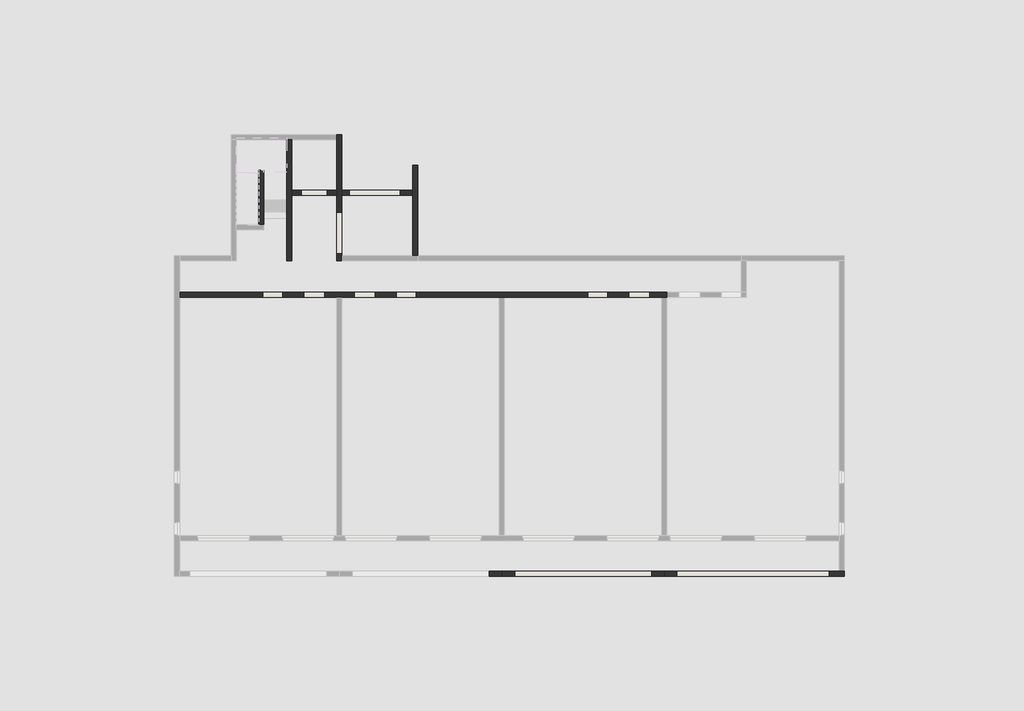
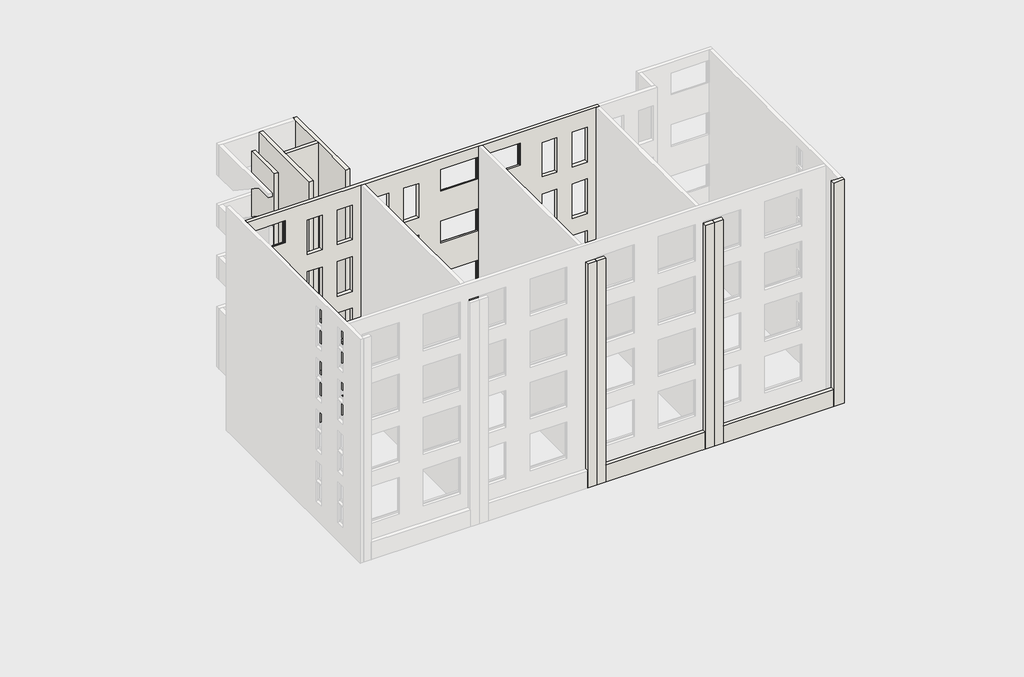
# One storey, part 2 of 5: 14 walls.
"""IFC4 building model written with IfcOpenShell, lengths in millimetres."""

import ifcopenshell
import ifcopenshell.guid

model = None  # the IFC model being written
_history = None  # IfcOwnerHistory: only IFC2X3 demands one
_inside = {}  # id of a spatial element -> (the spatial element, [elements in it])
_under = {}  # id of a project, library or spatial element -> (it, [spatial elements below it])
_declared = {}  # id of a project -> (the project, [libraries it declares])
_typed = {}  # id of a type object -> (the type object, [elements of that type])
_made_of = {}  # id of a material, layer set ... -> (it, [elements and type objects made of it])


def new_model(schema):
    """Start an empty IFC model of exactly this schema.

    Asked for "IFC4X3", IfcOpenShell would pick the latest addendum, in which some entities
    have other attributes; the version numbers below select the first issue.
    IFC2X3 requires an IfcOwnerHistory on every rooted entity: one is made here for all.
    """
    global model, _history
    if schema == "IFC4X3":
        model = ifcopenshell.file(schema_version=(4, 3, 0, 0))
    else:
        model = ifcopenshell.file(schema=schema)
    _inside.clear()
    _under.clear()
    _declared.clear()
    _typed.clear()
    _made_of.clear()
    _history = None
    if model.schema == "IFC2X3":
        org = make("IfcOrganization", Name="unknown")
        user = make(
            "IfcPersonAndOrganization",
            ThePerson=make("IfcPerson", FamilyName="unknown"),
            TheOrganization=org,
        )
        app = make(
            "IfcApplication",
            ApplicationDeveloper=org,
            Version="unknown",
            ApplicationFullName="unknown",
            ApplicationIdentifier="unknown",
        )
        _history = make(
            "IfcOwnerHistory",
            OwningUser=user,
            OwningApplication=app,
            ChangeAction="ADDED",
            CreationDate=0,
        )
    return model


def make(cls, **values):
    """One entity of the class cls with the attributes given. An attribute that is None is left unset."""
    return model.create_entity(
        cls, **{name: value for name, value in values.items() if value is not None}
    )


def rooted(cls, **values):
    """An entity with a GlobalId (a new one), such as an element, a storey or a relation."""
    return make(cls, GlobalId=ifcopenshell.guid.new(), OwnerHistory=_history, **values)


def si_unit(unit_type, name, prefix=None):
    """IfcSIUnit, for example si_unit("LENGTHUNIT", "METRE", prefix="MILLI")."""
    return make("IfcSIUnit", UnitType=unit_type, Prefix=prefix, Name=name)


def assignment(units):
    """IfcUnitAssignment: the units of a project."""
    return None if units is None else make("IfcUnitAssignment", Units=units)


def point(xyz):
    """IfcCartesianPoint."""
    return None if xyz is None else make("IfcCartesianPoint", Coordinates=xyz)


def direction(xyz):
    """IfcDirection."""
    return None if xyz is None else make("IfcDirection", DirectionRatios=xyz)


def frame(location, z_axis=None, x_axis=None):
    """IfcAxis2Placement3D, a coordinate frame: its origin and axes. An axis left out is left unset."""
    return make(
        "IfcAxis2Placement3D",
        Location=point(location),
        Axis=direction(z_axis),
        RefDirection=direction(x_axis),
    )


def origin():
    """The frame at (0, 0, 0) with its axes left unset."""
    return frame((0.0, 0.0, 0.0))


def place(relative_to, where):
    """IfcLocalPlacement: puts the frame where relative to a parent placement (None: the world)."""
    return make(
        "IfcLocalPlacement", PlacementRelTo=relative_to, RelativePlacement=where
    )


def context(
    kind, dimensions, precision=None, world=None, true_north=None, identifier=None
):
    """IfcGeometricRepresentationContext, for example the 3D "Model" context."""
    return make(
        "IfcGeometricRepresentationContext",
        ContextIdentifier=identifier,
        ContextType=kind,
        CoordinateSpaceDimension=dimensions,
        Precision=precision,
        WorldCoordinateSystem=world,
        TrueNorth=true_north,
    )


def project(units=None, contexts=None):
    """IfcProject with its units and contexts."""
    return rooted(
        "IfcProject",
        Name="project",
        RepresentationContexts=contexts,
        UnitsInContext=assignment(units),
    )


def spatial(cls, under=None, at=None, **own):
    """A site, building, storey or space (cls), placed at a placement, below another one or the project."""
    s = rooted(cls, ObjectPlacement=at, **own)
    if under is not None:
        _under.setdefault(under.id(), (under, []))[1].append(s)
    return s


def polyline(points):
    """IfcPolyline through the points."""
    return make("IfcPolyline", Points=[point(p) for p in points])


def outline(outer, holes=None, kind="AREA"):
    """IfcArbitraryClosedProfileDef: a profile drawn as a closed curve; with holes, ...WithVoids."""
    if holes is None:
        return make("IfcArbitraryClosedProfileDef", ProfileType=kind, OuterCurve=outer)
    return make(
        "IfcArbitraryProfileDefWithVoids",
        ProfileType=kind,
        OuterCurve=outer,
        InnerCurves=holes,
    )


def extrude(swept, where, along, depth):
    """IfcExtrudedAreaSolid: the profile swept, set in the frame where, extruded along a direction by depth."""
    return make(
        "IfcExtrudedAreaSolid",
        SweptArea=swept,
        Position=where,
        ExtrudedDirection=direction(along),
        Depth=depth,
    )


def faces_of(points, faces, orient=None, outer=None):
    """IfcFace entities. A face is a list of loops; a loop is a list of indices into points, from 0.

    orient and outer hold one flag for each loop. By default every Orientation is true, the
    first loop of a face is its IfcFaceOuterBound and the others are IfcFaceBound.
    """
    made = []
    for i, loops in enumerate(faces):
        bounds = []
        for j, loop in enumerate(loops):
            is_outer = j == 0 if outer is None else outer[i][j]
            bounds.append(
                make(
                    "IfcFaceOuterBound" if is_outer else "IfcFaceBound",
                    Bound=make("IfcPolyLoop", Polygon=[points[k] for k in loop]),
                    Orientation=True if orient is None else orient[i][j],
                )
            )
        made.append(make("IfcFace", Bounds=bounds))
    return made


def faceted_brep(points, faces, orient=None, outer=None, voids=None):
    """IfcFacetedBrep: a solid bounded by flat faces; with voids (closed shells), ...WithVoids."""
    shared = [point(p) for p in points]
    hull = make("IfcClosedShell", CfsFaces=faces_of(shared, faces, orient, outer))
    if voids is None:
        return make("IfcFacetedBrep", Outer=hull)
    return make(
        "IfcFacetedBrepWithVoids",
        Outer=hull,
        Voids=[
            make(cls, CfsFaces=faces_of(shared, fs, o, b)) for cls, fs, o, b in voids
        ],
    )


def shape(context_of_items, identifier, shape_type, items):
    """IfcShapeRepresentation: the items that make up one representation, for example the "Body"."""
    return make(
        "IfcShapeRepresentation",
        ContextOfItems=context_of_items,
        RepresentationIdentifier=identifier,
        RepresentationType=shape_type,
        Items=items,
    )


def made_of(thing, what):
    """Note that an element or type object is made of a material, layer set ...; save() writes the relation."""
    if what is not None:
        _made_of.setdefault(what.id(), (what, []))[1].append(thing)
    return thing


def element(
    cls,
    number,
    at=None,
    inside=None,
    cuts=None,
    type_object=None,
    material=None,
    context=None,
    identifier="Body",
    shape_type=None,
    held_by="IfcProductDefinitionShape",
    body=None,
    shapes=None,
    **own,
):
    """One element of the class cls, such as IfcWall. Its Tag is "e" and its number.

    at: its placement. inside: the storey or other place that contains it. cuts: it is an
    opening in that element (IfcRelVoidsElement). A single representation is given by context,
    identifier, shape_type and body (its items); several are given by shapes. held_by: the class
    of the entity that holds the representations. save() writes the other relations.
    """
    e = rooted(cls, Tag="e%d" % number, ObjectPlacement=at, **own)
    if body is not None:
        shapes = [shape(context, identifier, shape_type, body)]
    if shapes is not None:
        e.Representation = make(held_by, Representations=shapes)
    if inside is not None:
        _inside.setdefault(inside.id(), (inside, []))[1].append(e)
    if cuts is not None:
        rooted(
            "IfcRelVoidsElement", RelatingBuildingElement=cuts, RelatedOpeningElement=e
        )
    if type_object is not None:
        _typed.setdefault(type_object.id(), (type_object, []))[1].append(e)
    return made_of(e, material)


def aggregate(whole, parts):
    """IfcRelAggregates: a whole, such as a stair, and the parts it consists of."""
    return rooted("IfcRelAggregates", RelatingObject=whole, RelatedObjects=parts)


def save(model, path):
    """Write the relations noted so far, then the file.

    IfcRelAggregates (storeys below a building ...), IfcRelContainedInSpatialStructure (elements
    in a storey), IfcRelDefinesByType, IfcRelAssociatesMaterial and IfcRelDeclares: one each for
    every whole, place, type object, material and project.
    """
    for whole, parts in _under.values():
        aggregate(whole, parts)
    for where, things in _inside.values():
        rooted(
            "IfcRelContainedInSpatialStructure",
            RelatedElements=things,
            RelatingStructure=where,
        )
    for kind, things in _typed.values():
        rooted("IfcRelDefinesByType", RelatedObjects=things, RelatingType=kind)
    for what, things in _made_of.values():
        rooted("IfcRelAssociatesMaterial", RelatedObjects=things, RelatingMaterial=what)
    for by, libraries in _declared.values():
        rooted("IfcRelDeclares", RelatingContext=by, RelatedDefinitions=libraries)
    model.write(path)


model = new_model("IFC4")

# Units and contexts
model_context = context("Model", 3, world=origin())
ifc_project = project(units=[si_unit("LENGTHUNIT", "METRE", prefix="MILLI")], contexts=[model_context])

# Site, building, storey
site = spatial("IfcSite", under=ifc_project)
building = spatial("IfcBuilding", under=site)
storey = spatial("IfcBuildingStorey", under=building, Name="設計GL", Elevation=0.0)

# Walls
placement = place(None, origin())
element("IfcWall", 1, ObjectType="(R)RC200", at=placement, inside=storey, context=model_context, shape_type="Brep", body=[
    faceted_brep([(-11078.7187246, -5800.1171638, -1200.0), (-4828.7187246, -5800.1171638, -1200.0), (-4628.7187246, -5800.1171638, -1200.0), (1621.2812754, -5800.1171638, -1200.0), (1821.2812754, -5800.1171638, -1200.0), (8071.2812754, -5800.1171638, -1200.0), (8271.2812754, -5800.1171638, -1200.0), (8271.2812754, -5800.1171638, 13000.0), (8071.2812754, -5800.1171638, 13000.0), (1821.2812754, -5800.1171638, 13000.0), (1621.2812754, -5800.1171638, 13000.0), (-4628.7187246, -5800.1171638, 13000.0), (-4828.7187246, -5800.1171638, 13000.0), (-11078.7187246, -5800.1171638, 13000.0), (-6978.7187246, -5800.1171638, 1000.0), (-7778.7187246, -5800.1171638, 1000.0), (-7778.7187246, -5800.1171638, 3000.0), (-6978.7187246, -5800.1171638, 3000.0), (-6148.7187246, -5800.1171638, 3020.0), (-5308.7187246, -5800.1171638, 3020.0), (-5308.7187246, -5800.1171638, 1000.0), (-6148.7187246, -5800.1171638, 1000.0), (-8988.7187246, -5800.1171638, 3385.0), (-8988.7187246, -5800.1171638, 2115.0), (-11068.7187246, -5800.1171638, 2115.0), (-11068.7187246, -5800.1171638, 3385.0), (1611.2812754, -5800.1171638, 3385.0), (1611.2812754, -5800.1171638, 2115.0), (-468.7187246, -5800.1171638, 2115.0), (-468.7187246, -5800.1171638, 3385.0), (-3308.7187246, -5800.1171638, 3020.0), (-3308.7187246, -5800.1171638, 1000.0), (-4148.7187246, -5800.1171638, 1000.0), (-4148.7187246, -5800.1171638, 3020.0), (-2478.7187246, -5800.1171638, 1000.0), (-2478.7187246, -5800.1171638, 3000.0), (-1678.7187246, -5800.1171638, 3000.0), (-1678.7187246, -5800.1171638, 1000.0), (3911.2812754, -5800.1171638, 3385.0), (3911.2812754, -5800.1171638, 2115.0), (1831.2812754, -5800.1171638, 2115.0), (1831.2812754, -5800.1171638, 3385.0), (6751.2812754, -5800.1171638, 3020.0), (7591.2812754, -5800.1171638, 3020.0), (7591.2812754, -5800.1171638, 1000.0), (6751.2812754, -5800.1171638, 1000.0), (5921.2812754, -5800.1171638, 1000.0), (5121.2812754, -5800.1171638, 1000.0), (5121.2812754, -5800.1171638, 3000.0), (5921.2812754, -5800.1171638, 3000.0), (3911.2812754, -5800.1171638, 6385.0), (3911.2812754, -5800.1171638, 5115.0), (1831.2812754, -5800.1171638, 5115.0), (1831.2812754, -5800.1171638, 6385.0), (6751.2812754, -5800.1171638, 6020.0), (7591.2812754, -5800.1171638, 6020.0), (7591.2812754, -5800.1171638, 4000.0), (6751.2812754, -5800.1171638, 4000.0), (5921.2812754, -5800.1171638, 4000.0), (5121.2812754, -5800.1171638, 4000.0), (5121.2812754, -5800.1171638, 6000.0), (5921.2812754, -5800.1171638, 6000.0), (1611.2812754, -5800.1171638, 6385.0), (1611.2812754, -5800.1171638, 5115.0), (-468.7187246, -5800.1171638, 5115.0), (-468.7187246, -5800.1171638, 6385.0), (-3308.7187246, -5800.1171638, 6020.0), (-3308.7187246, -5800.1171638, 4000.0), (-4148.7187246, -5800.1171638, 4000.0), (-4148.7187246, -5800.1171638, 6020.0), (-2478.7187246, -5800.1171638, 4000.0), (-2478.7187246, -5800.1171638, 6000.0), (-1678.7187246, -5800.1171638, 6000.0), (-1678.7187246, -5800.1171638, 4000.0), (-8988.7187246, -5800.1171638, 6385.0), (-8988.7187246, -5800.1171638, 5115.0), (-11068.7187246, -5800.1171638, 5115.0), (-11068.7187246, -5800.1171638, 6385.0), (-6148.7187246, -5800.1171638, 6020.0), (-5308.7187246, -5800.1171638, 6020.0), (-5308.7187246, -5800.1171638, 4000.0), (-6148.7187246, -5800.1171638, 4000.0), (-6978.7187246, -5800.1171638, 4000.0), (-7778.7187246, -5800.1171638, 4000.0), (-7778.7187246, -5800.1171638, 6000.0), (-6978.7187246, -5800.1171638, 6000.0), (3911.2812754, -5800.1171638, 9385.0), (3911.2812754, -5800.1171638, 8115.0), (1831.2812754, -5800.1171638, 8115.0), (1831.2812754, -5800.1171638, 9385.0), (6751.2812754, -5800.1171638, 9020.0), (7591.2812754, -5800.1171638, 9020.0), (7591.2812754, -5800.1171638, 7000.0), (6751.2812754, -5800.1171638, 7000.0), (5921.2812754, -5800.1171638, 7000.0), (5121.2812754, -5800.1171638, 7000.0), (5121.2812754, -5800.1171638, 9000.0), (5921.2812754, -5800.1171638, 9000.0), (1611.2812754, -5800.1171638, 9385.0), (1611.2812754, -5800.1171638, 8115.0), (-468.7187246, -5800.1171638, 8115.0), (-468.7187246, -5800.1171638, 9385.0), (-3308.7187246, -5800.1171638, 9020.0), (-3308.7187246, -5800.1171638, 7000.0), (-4148.7187246, -5800.1171638, 7000.0), (-4148.7187246, -5800.1171638, 9020.0), (-2478.7187246, -5800.1171638, 7000.0), (-2478.7187246, -5800.1171638, 9000.0), (-1678.7187246, -5800.1171638, 9000.0), (-1678.7187246, -5800.1171638, 7000.0), (-8988.7187246, -5800.1171638, 9385.0), (-8988.7187246, -5800.1171638, 8115.0), (-11068.7187246, -5800.1171638, 8115.0), (-11068.7187246, -5800.1171638, 9385.0), (-6148.7187246, -5800.1171638, 9020.0), (-5308.7187246, -5800.1171638, 9020.0), (-5308.7187246, -5800.1171638, 7000.0), (-6148.7187246, -5800.1171638, 7000.0), (-6978.7187246, -5800.1171638, 7000.0), (-7778.7187246, -5800.1171638, 7000.0), (-7778.7187246, -5800.1171638, 9000.0), (-6978.7187246, -5800.1171638, 9000.0), (3911.2812754, -5800.1171638, 12385.0), (3911.2812754, -5800.1171638, 11115.0), (1831.2812754, -5800.1171638, 11115.0), (1831.2812754, -5800.1171638, 12385.0), (6751.2812754, -5800.1171638, 12020.0), (7591.2812754, -5800.1171638, 12020.0), (7591.2812754, -5800.1171638, 10000.0), (6751.2812754, -5800.1171638, 10000.0), (5921.2812754, -5800.1171638, 10000.0), (5121.2812754, -5800.1171638, 10000.0), (5121.2812754, -5800.1171638, 12000.0), (5921.2812754, -5800.1171638, 12000.0), (1611.2812754, -5800.1171638, 12385.0), (1611.2812754, -5800.1171638, 11115.0), (-468.7187246, -5800.1171638, 11115.0), (-468.7187246, -5800.1171638, 12385.0), (-3308.7187246, -5800.1171638, 12020.0), (-3308.7187246, -5800.1171638, 10000.0), (-4148.7187246, -5800.1171638, 10000.0), (-4148.7187246, -5800.1171638, 12020.0), (-2478.7187246, -5800.1171638, 10000.0), (-2478.7187246, -5800.1171638, 12000.0), (-1678.7187246, -5800.1171638, 12000.0), (-1678.7187246, -5800.1171638, 10000.0), (-8988.7187246, -5800.1171638, 12385.0), (-8988.7187246, -5800.1171638, 11115.0), (-11068.7187246, -5800.1171638, 11115.0), (-11068.7187246, -5800.1171638, 12385.0), (-6148.7187246, -5800.1171638, 12020.0), (-5308.7187246, -5800.1171638, 12020.0), (-5308.7187246, -5800.1171638, 10000.0), (-6148.7187246, -5800.1171638, 10000.0), (-6978.7187246, -5800.1171638, 10000.0), (-7778.7187246, -5800.1171638, 10000.0), (-7778.7187246, -5800.1171638, 12000.0), (-6978.7187246, -5800.1171638, 12000.0), (-11078.7187246, -5600.1171638, -1200.0), (-11078.7187246, -5600.1171638, 13000.0), (8271.2812754, -5600.1171638, 13000.0), (8271.2812754, -5600.1171638, -1200.0), (-6978.7187246, -5600.1171638, 1000.0), (-6978.7187246, -5600.1171638, 3000.0), (-7778.7187246, -5600.1171638, 3000.0), (-7778.7187246, -5600.1171638, 1000.0), (-6148.7187246, -5600.1171638, 3020.0), (-6148.7187246, -5600.1171638, 1000.0), (-5308.7187246, -5600.1171638, 1000.0), (-5308.7187246, -5600.1171638, 3020.0), (-11038.7187246, -5600.1171638, 2025.0), (-9018.7187246, -5600.1171638, 2025.0), (-9018.7187246, -5600.1171638, 3360.0), (-11038.7187246, -5600.1171638, 3360.0), (-438.7187246, -5600.1171638, 2025.0), (1581.2812754, -5600.1171638, 2025.0), (1581.2812754, -5600.1171638, 3360.0), (-438.7187246, -5600.1171638, 3360.0), (-3308.7187246, -5600.1171638, 3020.0), (-4148.7187246, -5600.1171638, 3020.0), (-4148.7187246, -5600.1171638, 1000.0), (-3308.7187246, -5600.1171638, 1000.0), (-2478.7187246, -5600.1171638, 1000.0), (-1678.7187246, -5600.1171638, 1000.0), (-1678.7187246, -5600.1171638, 3000.0), (-2478.7187246, -5600.1171638, 3000.0), (1861.2812754, -5600.1171638, 2025.0), (3881.2812754, -5600.1171638, 2025.0), (3881.2812754, -5600.1171638, 3360.0), (1861.2812754, -5600.1171638, 3360.0), (6751.2812754, -5600.1171638, 3020.0), (6751.2812754, -5600.1171638, 1000.0), (7591.2812754, -5600.1171638, 1000.0), (7591.2812754, -5600.1171638, 3020.0), (5921.2812754, -5600.1171638, 1000.0), (5921.2812754, -5600.1171638, 3000.0), (5121.2812754, -5600.1171638, 3000.0), (5121.2812754, -5600.1171638, 1000.0), (1861.2812754, -5600.1171638, 5025.0), (3881.2812754, -5600.1171638, 5025.0), (3881.2812754, -5600.1171638, 6360.0), (1861.2812754, -5600.1171638, 6360.0), (6751.2812754, -5600.1171638, 6020.0), (6751.2812754, -5600.1171638, 4000.0), (7591.2812754, -5600.1171638, 4000.0), (7591.2812754, -5600.1171638, 6020.0), (5921.2812754, -5600.1171638, 4000.0), (5921.2812754, -5600.1171638, 6000.0), (5121.2812754, -5600.1171638, 6000.0), (5121.2812754, -5600.1171638, 4000.0), (-438.7187246, -5600.1171638, 5025.0), (1581.2812754, -5600.1171638, 5025.0), (1581.2812754, -5600.1171638, 6360.0), (-438.7187246, -5600.1171638, 6360.0), (-3308.7187246, -5600.1171638, 6020.0), (-4148.7187246, -5600.1171638, 6020.0), (-4148.7187246, -5600.1171638, 4000.0), (-3308.7187246, -5600.1171638, 4000.0), (-2478.7187246, -5600.1171638, 4000.0), (-1678.7187246, -5600.1171638, 4000.0), (-1678.7187246, -5600.1171638, 6000.0), (-2478.7187246, -5600.1171638, 6000.0), (-11038.7187246, -5600.1171638, 5025.0), (-9018.7187246, -5600.1171638, 5025.0), (-9018.7187246, -5600.1171638, 6360.0), (-11038.7187246, -5600.1171638, 6360.0), (-6148.7187246, -5600.1171638, 6020.0), (-6148.7187246, -5600.1171638, 4000.0), (-5308.7187246, -5600.1171638, 4000.0), (-5308.7187246, -5600.1171638, 6020.0), (-6978.7187246, -5600.1171638, 4000.0), (-6978.7187246, -5600.1171638, 6000.0), (-7778.7187246, -5600.1171638, 6000.0), (-7778.7187246, -5600.1171638, 4000.0), (1861.2812754, -5600.1171638, 8025.0), (3881.2812754, -5600.1171638, 8025.0), (3881.2812754, -5600.1171638, 9360.0), (1861.2812754, -5600.1171638, 9360.0), (6751.2812754, -5600.1171638, 9020.0), (6751.2812754, -5600.1171638, 7000.0), (7591.2812754, -5600.1171638, 7000.0), (7591.2812754, -5600.1171638, 9020.0), (5921.2812754, -5600.1171638, 7000.0), (5921.2812754, -5600.1171638, 9000.0), (5121.2812754, -5600.1171638, 9000.0), (5121.2812754, -5600.1171638, 7000.0), (-438.7187246, -5600.1171638, 8025.0), (1581.2812754, -5600.1171638, 8025.0), (1581.2812754, -5600.1171638, 9360.0), (-438.7187246, -5600.1171638, 9360.0), (-3308.7187246, -5600.1171638, 9020.0), (-4148.7187246, -5600.1171638, 9020.0), (-4148.7187246, -5600.1171638, 7000.0), (-3308.7187246, -5600.1171638, 7000.0), (-2478.7187246, -5600.1171638, 7000.0), (-1678.7187246, -5600.1171638, 7000.0), (-1678.7187246, -5600.1171638, 9000.0), (-2478.7187246, -5600.1171638, 9000.0), (-11038.7187246, -5600.1171638, 8025.0), (-9018.7187246, -5600.1171638, 8025.0), (-9018.7187246, -5600.1171638, 9360.0), (-11038.7187246, -5600.1171638, 9360.0), (-6148.7187246, -5600.1171638, 9020.0), (-6148.7187246, -5600.1171638, 7000.0), (-5308.7187246, -5600.1171638, 7000.0), (-5308.7187246, -5600.1171638, 9020.0), (-6978.7187246, -5600.1171638, 7000.0), (-6978.7187246, -5600.1171638, 9000.0), (-7778.7187246, -5600.1171638, 9000.0), (-7778.7187246, -5600.1171638, 7000.0), (1861.2812754, -5600.1171638, 11025.0), (3881.2812754, -5600.1171638, 11025.0), (3881.2812754, -5600.1171638, 12360.0), (1861.2812754, -5600.1171638, 12360.0), (6751.2812754, -5600.1171638, 12020.0), (6751.2812754, -5600.1171638, 10000.0), (7591.2812754, -5600.1171638, 10000.0), (7591.2812754, -5600.1171638, 12020.0), (5921.2812754, -5600.1171638, 10000.0), (5921.2812754, -5600.1171638, 12000.0), (5121.2812754, -5600.1171638, 12000.0), (5121.2812754, -5600.1171638, 10000.0), (-438.7187246, -5600.1171638, 11025.0), (1581.2812754, -5600.1171638, 11025.0), (1581.2812754, -5600.1171638, 12360.0), (-438.7187246, -5600.1171638, 12360.0), (-3308.7187246, -5600.1171638, 12020.0), (-4148.7187246, -5600.1171638, 12020.0), (-4148.7187246, -5600.1171638, 10000.0), (-3308.7187246, -5600.1171638, 10000.0), (-2478.7187246, -5600.1171638, 10000.0), (-1678.7187246, -5600.1171638, 10000.0), (-1678.7187246, -5600.1171638, 12000.0), (-2478.7187246, -5600.1171638, 12000.0), (-11038.7187246, -5600.1171638, 11025.0), (-9018.7187246, -5600.1171638, 11025.0), (-9018.7187246, -5600.1171638, 12360.0), (-11038.7187246, -5600.1171638, 12360.0), (-6148.7187246, -5600.1171638, 12020.0), (-6148.7187246, -5600.1171638, 10000.0), (-5308.7187246, -5600.1171638, 10000.0), (-5308.7187246, -5600.1171638, 12020.0), (-6978.7187246, -5600.1171638, 10000.0), (-6978.7187246, -5600.1171638, 12000.0), (-7778.7187246, -5600.1171638, 12000.0), (-7778.7187246, -5600.1171638, 10000.0), (-8988.7187246, -5730.1171638, 3385.0), (-8988.7187246, -5730.1171638, 2115.0), (-11068.7187246, -5730.1171638, 2115.0), (-11068.7187246, -5730.1171638, 3385.0), (-8998.7187246, -5730.1171638, 2115.0), (-11058.7187246, -5730.1171638, 2115.0), (-11058.7187246, -5730.1171638, 3380.0), (-8998.7187246, -5730.1171638, 3380.0), (-8998.7187246, -5660.1171638, 3380.0), (-8998.7187246, -5660.1171638, 2034.2307692), (-8998.7187246, -5730.1171638, 2045.0), (-11058.7187246, -5730.1171638, 2045.0), (-11058.7187246, -5660.1171638, 2034.2307692), (-11058.7187246, -5660.1171638, 3380.0), (-9018.7187246, -5660.1171638, 2034.2307692), (-11038.7187246, -5660.1171638, 2034.2307692), (-11038.7187246, -5660.1171638, 3360.0), (-9018.7187246, -5660.1171638, 3360.0), (1611.2812754, -5730.1171638, 3385.0), (1611.2812754, -5730.1171638, 2115.0), (-468.7187246, -5730.1171638, 2115.0), (-468.7187246, -5730.1171638, 3385.0), (1601.2812754, -5730.1171638, 2115.0), (-458.7187246, -5730.1171638, 2115.0), (-458.7187246, -5730.1171638, 3380.0), (1601.2812754, -5730.1171638, 3380.0), (1601.2812754, -5660.1171638, 3380.0), (1601.2812754, -5660.1171638, 2034.2307692), (1601.2812754, -5730.1171638, 2045.0), (-458.7187246, -5730.1171638, 2045.0), (-458.7187246, -5660.1171638, 2034.2307692), (-458.7187246, -5660.1171638, 3380.0), (1581.2812754, -5660.1171638, 2034.2307692), (-438.7187246, -5660.1171638, 2034.2307692), (-438.7187246, -5660.1171638, 3360.0), (1581.2812754, -5660.1171638, 3360.0), (3911.2812754, -5730.1171638, 3385.0), (3911.2812754, -5730.1171638, 2115.0), (1831.2812754, -5730.1171638, 2115.0), (1831.2812754, -5730.1171638, 3385.0), (3901.2812754, -5730.1171638, 2115.0), (1841.2812754, -5730.1171638, 2115.0), (1841.2812754, -5730.1171638, 3380.0), (3901.2812754, -5730.1171638, 3380.0), (3901.2812754, -5660.1171638, 3380.0), (3901.2812754, -5660.1171638, 2034.2307692), (3901.2812754, -5730.1171638, 2045.0), (1841.2812754, -5730.1171638, 2045.0), (1841.2812754, -5660.1171638, 2034.2307692), (1841.2812754, -5660.1171638, 3380.0), (3881.2812754, -5660.1171638, 2034.2307692), (1861.2812754, -5660.1171638, 2034.2307692), (1861.2812754, -5660.1171638, 3360.0), (3881.2812754, -5660.1171638, 3360.0), (3911.2812754, -5730.1171638, 6385.0), (3911.2812754, -5730.1171638, 5115.0), (1831.2812754, -5730.1171638, 5115.0), (1831.2812754, -5730.1171638, 6385.0), (3901.2812754, -5730.1171638, 5115.0), (1841.2812754, -5730.1171638, 5115.0), (1841.2812754, -5730.1171638, 6380.0), (3901.2812754, -5730.1171638, 6380.0), (3901.2812754, -5660.1171638, 6380.0), (3901.2812754, -5660.1171638, 5034.2307692), (3901.2812754, -5730.1171638, 5045.0), (1841.2812754, -5730.1171638, 5045.0), (1841.2812754, -5660.1171638, 5034.2307692), (1841.2812754, -5660.1171638, 6380.0), (3881.2812754, -5660.1171638, 5034.2307692), (1861.2812754, -5660.1171638, 5034.2307692), (1861.2812754, -5660.1171638, 6360.0), (3881.2812754, -5660.1171638, 6360.0), (1611.2812754, -5730.1171638, 6385.0), (1611.2812754, -5730.1171638, 5115.0), (-468.7187246, -5730.1171638, 5115.0), (-468.7187246, -5730.1171638, 6385.0), (1601.2812754, -5730.1171638, 5115.0), (-458.7187246, -5730.1171638, 5115.0), (-458.7187246, -5730.1171638, 6380.0), (1601.2812754, -5730.1171638, 6380.0), (1601.2812754, -5660.1171638, 6380.0), (1601.2812754, -5660.1171638, 5034.2307692), (1601.2812754, -5730.1171638, 5045.0), (-458.7187246, -5730.1171638, 5045.0), (-458.7187246, -5660.1171638, 5034.2307692), (-458.7187246, -5660.1171638, 6380.0), (1581.2812754, -5660.1171638, 5034.2307692), (-438.7187246, -5660.1171638, 5034.2307692), (-438.7187246, -5660.1171638, 6360.0), (1581.2812754, -5660.1171638, 6360.0), (-8988.7187246, -5730.1171638, 6385.0), (-8988.7187246, -5730.1171638, 5115.0), (-11068.7187246, -5730.1171638, 5115.0), (-11068.7187246, -5730.1171638, 6385.0), (-8998.7187246, -5730.1171638, 5115.0), (-11058.7187246, -5730.1171638, 5115.0), (-11058.7187246, -5730.1171638, 6380.0), (-8998.7187246, -5730.1171638, 6380.0), (-8998.7187246, -5660.1171638, 6380.0), (-8998.7187246, -5660.1171638, 5034.2307692), (-8998.7187246, -5730.1171638, 5045.0), (-11058.7187246, -5730.1171638, 5045.0), (-11058.7187246, -5660.1171638, 5034.2307692), (-11058.7187246, -5660.1171638, 6380.0), (-9018.7187246, -5660.1171638, 5034.2307692), (-11038.7187246, -5660.1171638, 5034.2307692), (-11038.7187246, -5660.1171638, 6360.0), (-9018.7187246, -5660.1171638, 6360.0), (3911.2812754, -5730.1171638, 9385.0), (3911.2812754, -5730.1171638, 8115.0), (1831.2812754, -5730.1171638, 8115.0), (1831.2812754, -5730.1171638, 9385.0), (3901.2812754, -5730.1171638, 8115.0), (1841.2812754, -5730.1171638, 8115.0), (1841.2812754, -5730.1171638, 9380.0), (3901.2812754, -5730.1171638, 9380.0), (3901.2812754, -5660.1171638, 9380.0), (3901.2812754, -5660.1171638, 8034.2307692), (3901.2812754, -5730.1171638, 8045.0), (1841.2812754, -5730.1171638, 8045.0), (1841.2812754, -5660.1171638, 8034.2307692), (1841.2812754, -5660.1171638, 9380.0), (3881.2812754, -5660.1171638, 8034.2307692), (1861.2812754, -5660.1171638, 8034.2307692), (1861.2812754, -5660.1171638, 9360.0), (3881.2812754, -5660.1171638, 9360.0), (1611.2812754, -5730.1171638, 9385.0), (1611.2812754, -5730.1171638, 8115.0), (-468.7187246, -5730.1171638, 8115.0), (-468.7187246, -5730.1171638, 9385.0), (1601.2812754, -5730.1171638, 8115.0), (-458.7187246, -5730.1171638, 8115.0), (-458.7187246, -5730.1171638, 9380.0), (1601.2812754, -5730.1171638, 9380.0), (1601.2812754, -5660.1171638, 9380.0), (1601.2812754, -5660.1171638, 8034.2307692), (1601.2812754, -5730.1171638, 8045.0), (-458.7187246, -5730.1171638, 8045.0), (-458.7187246, -5660.1171638, 8034.2307692), (-458.7187246, -5660.1171638, 9380.0), (1581.2812754, -5660.1171638, 8034.2307692), (-438.7187246, -5660.1171638, 8034.2307692), (-438.7187246, -5660.1171638, 9360.0), (1581.2812754, -5660.1171638, 9360.0), (-8988.7187246, -5730.1171638, 9385.0), (-8988.7187246, -5730.1171638, 8115.0), (-11068.7187246, -5730.1171638, 8115.0), (-11068.7187246, -5730.1171638, 9385.0), (-8998.7187246, -5730.1171638, 8115.0), (-11058.7187246, -5730.1171638, 8115.0), (-11058.7187246, -5730.1171638, 9380.0), (-8998.7187246, -5730.1171638, 9380.0), (-8998.7187246, -5660.1171638, 9380.0), (-8998.7187246, -5660.1171638, 8034.2307692), (-8998.7187246, -5730.1171638, 8045.0), (-11058.7187246, -5730.1171638, 8045.0), (-11058.7187246, -5660.1171638, 8034.2307692), (-11058.7187246, -5660.1171638, 9380.0), (-9018.7187246, -5660.1171638, 8034.2307692), (-11038.7187246, -5660.1171638, 8034.2307692), (-11038.7187246, -5660.1171638, 9360.0), (-9018.7187246, -5660.1171638, 9360.0), (3911.2812754, -5730.1171638, 12385.0), (3911.2812754, -5730.1171638, 11115.0), (1831.2812754, -5730.1171638, 11115.0), (1831.2812754, -5730.1171638, 12385.0), (3901.2812754, -5730.1171638, 11115.0), (1841.2812754, -5730.1171638, 11115.0), (1841.2812754, -5730.1171638, 12380.0), (3901.2812754, -5730.1171638, 12380.0), (3901.2812754, -5660.1171638, 12380.0), (3901.2812754, -5660.1171638, 11034.2307692), (3901.2812754, -5730.1171638, 11045.0), (1841.2812754, -5730.1171638, 11045.0), (1841.2812754, -5660.1171638, 11034.2307692), (1841.2812754, -5660.1171638, 12380.0), (3881.2812754, -5660.1171638, 11034.2307692), (1861.2812754, -5660.1171638, 11034.2307692), (1861.2812754, -5660.1171638, 12360.0), (3881.2812754, -5660.1171638, 12360.0), (1611.2812754, -5730.1171638, 12385.0), (1611.2812754, -5730.1171638, 11115.0), (-468.7187246, -5730.1171638, 11115.0), (-468.7187246, -5730.1171638, 12385.0), (1601.2812754, -5730.1171638, 11115.0), (-458.7187246, -5730.1171638, 11115.0), (-458.7187246, -5730.1171638, 12380.0), (1601.2812754, -5730.1171638, 12380.0), (1601.2812754, -5660.1171638, 12380.0), (1601.2812754, -5660.1171638, 11034.2307692), (1601.2812754, -5730.1171638, 11045.0), (-458.7187246, -5730.1171638, 11045.0), (-458.7187246, -5660.1171638, 11034.2307692), (-458.7187246, -5660.1171638, 12380.0), (1581.2812754, -5660.1171638, 11034.2307692), (-438.7187246, -5660.1171638, 11034.2307692), (-438.7187246, -5660.1171638, 12360.0), (1581.2812754, -5660.1171638, 12360.0), (-8988.7187246, -5730.1171638, 12385.0), (-8988.7187246, -5730.1171638, 11115.0), (-11068.7187246, -5730.1171638, 11115.0), (-11068.7187246, -5730.1171638, 12385.0), (-8998.7187246, -5730.1171638, 11115.0), (-11058.7187246, -5730.1171638, 11115.0), (-11058.7187246, -5730.1171638, 12380.0), (-8998.7187246, -5730.1171638, 12380.0), (-8998.7187246, -5660.1171638, 12380.0), (-8998.7187246, -5660.1171638, 11034.2307692), (-8998.7187246, -5730.1171638, 11045.0), (-11058.7187246, -5730.1171638, 11045.0), (-11058.7187246, -5660.1171638, 11034.2307692), (-11058.7187246, -5660.1171638, 12380.0), (-9018.7187246, -5660.1171638, 11034.2307692), (-11038.7187246, -5660.1171638, 11034.2307692), (-11038.7187246, -5660.1171638, 12360.0), (-9018.7187246, -5660.1171638, 12360.0)], [[[0, 1, 2, 3, 4, 5, 6, 7, 8, 9, 10, 11, 12, 13], [14, 15, 16, 17], [18, 19, 20, 21], [22, 23, 24, 25], [26, 27, 28, 29], [30, 31, 32, 33], [34, 35, 36, 37], [38, 39, 40, 41], [42, 43, 44, 45], [46, 47, 48, 49], [50, 51, 52, 53], [54, 55, 56, 57], [58, 59, 60, 61], [62, 63, 64, 65], [66, 67, 68, 69], [70, 71, 72, 73], [74, 75, 76, 77], [78, 79, 80, 81], [82, 83, 84, 85], [86, 87, 88, 89], [90, 91, 92, 93], [94, 95, 96, 97], [98, 99, 100, 101], [102, 103, 104, 105], [106, 107, 108, 109], [110, 111, 112, 113], [114, 115, 116, 117], [118, 119, 120, 121], [122, 123, 124, 125], [126, 127, 128, 129], [130, 131, 132, 133], [134, 135, 136, 137], [138, 139, 140, 141], [142, 143, 144, 145], [146, 147, 148, 149], [150, 151, 152, 153], [154, 155, 156, 157]], [[158, 159, 160, 161], [162, 163, 164, 165], [166, 167, 168, 169], [170, 171, 172, 173], [174, 175, 176, 177], [178, 179, 180, 181], [182, 183, 184, 185], [186, 187, 188, 189], [190, 191, 192, 193], [194, 195, 196, 197], [198, 199, 200, 201], [202, 203, 204, 205], [206, 207, 208, 209], [210, 211, 212, 213], [214, 215, 216, 217], [218, 219, 220, 221], [222, 223, 224, 225], [226, 227, 228, 229], [230, 231, 232, 233], [234, 235, 236, 237], [238, 239, 240, 241], [242, 243, 244, 245], [246, 247, 248, 249], [250, 251, 252, 253], [254, 255, 256, 257], [258, 259, 260, 261], [262, 263, 264, 265], [266, 267, 268, 269], [270, 271, 272, 273], [274, 275, 276, 277], [278, 279, 280, 281], [282, 283, 284, 285], [286, 287, 288, 289], [290, 291, 292, 293], [294, 295, 296, 297], [298, 299, 300, 301], [302, 303, 304, 305]], [[6, 5, 4, 3, 2, 1, 0, 158, 161]], [[13, 12, 11, 10, 9, 8, 7, 160, 159]], [[0, 13, 159, 158]], [[163, 162, 14, 17]], [[164, 163, 17, 16]], [[165, 164, 16, 15]], [[162, 165, 15, 14]], [[167, 166, 18, 21]], [[168, 167, 21, 20]], [[169, 168, 20, 19]], [[166, 169, 19, 18]], [[306, 307, 23, 22]], [[308, 309, 25, 24]], [[23, 307, 310, 311, 308, 24]], [[307, 306, 309, 308, 311, 312, 313, 310]], [[309, 306, 22, 25]], [[313, 314, 315, 316, 310]], [[317, 318, 319, 312, 311]], [[316, 315, 320, 171, 170, 321, 318, 317]], [[315, 314, 319, 318, 321, 322, 323, 320]], [[314, 313, 312, 319]], [[316, 317, 311, 310]], [[323, 172, 171, 320]], [[321, 170, 173, 322]], [[172, 323, 322, 173]], [[324, 325, 27, 26]], [[326, 327, 29, 28]], [[27, 325, 328, 329, 326, 28]], [[325, 324, 327, 326, 329, 330, 331, 328]], [[327, 324, 26, 29]], [[331, 332, 333, 334, 328]], [[335, 336, 337, 330, 329]], [[334, 333, 338, 175, 174, 339, 336, 335]], [[333, 332, 337, 336, 339, 340, 341, 338]], [[332, 331, 330, 337]], [[334, 335, 329, 328]], [[341, 176, 175, 338]], [[339, 174, 177, 340]], [[176, 341, 340, 177]], [[31, 30, 178, 181]], [[32, 31, 181, 180]], [[33, 32, 180, 179]], [[30, 33, 179, 178]], [[35, 34, 182, 185]], [[36, 35, 185, 184]], [[37, 36, 184, 183]], [[34, 37, 183, 182]], [[342, 343, 39, 38]], [[344, 345, 41, 40]], [[39, 343, 346, 347, 344, 40]], [[343, 342, 345, 344, 347, 348, 349, 346]], [[345, 342, 38, 41]], [[349, 350, 351, 352, 346]], [[353, 354, 355, 348, 347]], [[352, 351, 356, 187, 186, 357, 354, 353]], [[351, 350, 355, 354, 357, 358, 359, 356]], [[350, 349, 348, 355]], [[352, 353, 347, 346]], [[359, 188, 187, 356]], [[357, 186, 189, 358]], [[188, 359, 358, 189]], [[191, 190, 42, 45]], [[192, 191, 45, 44]], [[193, 192, 44, 43]], [[190, 193, 43, 42]], [[195, 194, 46, 49]], [[196, 195, 49, 48]], [[197, 196, 48, 47]], [[194, 197, 47, 46]], [[7, 6, 161, 160]], [[360, 361, 51, 50]], [[362, 363, 53, 52]], [[51, 361, 364, 365, 362, 52]], [[361, 360, 363, 362, 365, 366, 367, 364]], [[363, 360, 50, 53]], [[367, 368, 369, 370, 364]], [[371, 372, 373, 366, 365]], [[370, 369, 374, 199, 198, 375, 372, 371]], [[369, 368, 373, 372, 375, 376, 377, 374]], [[368, 367, 366, 373]], [[370, 371, 365, 364]], [[377, 200, 199, 374]], [[375, 198, 201, 376]], [[200, 377, 376, 201]], [[203, 202, 54, 57]], [[204, 203, 57, 56]], [[205, 204, 56, 55]], [[202, 205, 55, 54]], [[207, 206, 58, 61]], [[208, 207, 61, 60]], [[209, 208, 60, 59]], [[206, 209, 59, 58]], [[378, 379, 63, 62]], [[380, 381, 65, 64]], [[63, 379, 382, 383, 380, 64]], [[379, 378, 381, 380, 383, 384, 385, 382]], [[381, 378, 62, 65]], [[385, 386, 387, 388, 382]], [[389, 390, 391, 384, 383]], [[388, 387, 392, 211, 210, 393, 390, 389]], [[387, 386, 391, 390, 393, 394, 395, 392]], [[386, 385, 384, 391]], [[388, 389, 383, 382]], [[395, 212, 211, 392]], [[393, 210, 213, 394]], [[212, 395, 394, 213]], [[67, 66, 214, 217]], [[68, 67, 217, 216]], [[69, 68, 216, 215]], [[66, 69, 215, 214]], [[71, 70, 218, 221]], [[72, 71, 221, 220]], [[73, 72, 220, 219]], [[70, 73, 219, 218]], [[396, 397, 75, 74]], [[398, 399, 77, 76]], [[75, 397, 400, 401, 398, 76]], [[397, 396, 399, 398, 401, 402, 403, 400]], [[399, 396, 74, 77]], [[403, 404, 405, 406, 400]], [[407, 408, 409, 402, 401]], [[406, 405, 410, 223, 222, 411, 408, 407]], [[405, 404, 409, 408, 411, 412, 413, 410]], [[404, 403, 402, 409]], [[406, 407, 401, 400]], [[413, 224, 223, 410]], [[411, 222, 225, 412]], [[224, 413, 412, 225]], [[227, 226, 78, 81]], [[228, 227, 81, 80]], [[229, 228, 80, 79]], [[226, 229, 79, 78]], [[231, 230, 82, 85]], [[232, 231, 85, 84]], [[233, 232, 84, 83]], [[230, 233, 83, 82]], [[414, 415, 87, 86]], [[416, 417, 89, 88]], [[87, 415, 418, 419, 416, 88]], [[415, 414, 417, 416, 419, 420, 421, 418]], [[417, 414, 86, 89]], [[421, 422, 423, 424, 418]], [[425, 426, 427, 420, 419]], [[424, 423, 428, 235, 234, 429, 426, 425]], [[423, 422, 427, 426, 429, 430, 431, 428]], [[422, 421, 420, 427]], [[424, 425, 419, 418]], [[431, 236, 235, 428]], [[429, 234, 237, 430]], [[236, 431, 430, 237]], [[239, 238, 90, 93]], [[240, 239, 93, 92]], [[241, 240, 92, 91]], [[238, 241, 91, 90]], [[243, 242, 94, 97]], [[244, 243, 97, 96]], [[245, 244, 96, 95]], [[242, 245, 95, 94]], [[432, 433, 99, 98]], [[434, 435, 101, 100]], [[99, 433, 436, 437, 434, 100]], [[433, 432, 435, 434, 437, 438, 439, 436]], [[435, 432, 98, 101]], [[439, 440, 441, 442, 436]], [[443, 444, 445, 438, 437]], [[442, 441, 446, 247, 246, 447, 444, 443]], [[441, 440, 445, 444, 447, 448, 449, 446]], [[440, 439, 438, 445]], [[442, 443, 437, 436]], [[449, 248, 247, 446]], [[447, 246, 249, 448]], [[248, 449, 448, 249]], [[103, 102, 250, 253]], [[104, 103, 253, 252]], [[105, 104, 252, 251]], [[102, 105, 251, 250]], [[107, 106, 254, 257]], [[108, 107, 257, 256]], [[109, 108, 256, 255]], [[106, 109, 255, 254]], [[450, 451, 111, 110]], [[452, 453, 113, 112]], [[111, 451, 454, 455, 452, 112]], [[451, 450, 453, 452, 455, 456, 457, 454]], [[453, 450, 110, 113]], [[457, 458, 459, 460, 454]], [[461, 462, 463, 456, 455]], [[460, 459, 464, 259, 258, 465, 462, 461]], [[459, 458, 463, 462, 465, 466, 467, 464]], [[458, 457, 456, 463]], [[460, 461, 455, 454]], [[467, 260, 259, 464]], [[465, 258, 261, 466]], [[260, 467, 466, 261]], [[263, 262, 114, 117]], [[264, 263, 117, 116]], [[265, 264, 116, 115]], [[262, 265, 115, 114]], [[267, 266, 118, 121]], [[268, 267, 121, 120]], [[269, 268, 120, 119]], [[266, 269, 119, 118]], [[468, 469, 123, 122]], [[470, 471, 125, 124]], [[123, 469, 472, 473, 470, 124]], [[469, 468, 471, 470, 473, 474, 475, 472]], [[471, 468, 122, 125]], [[475, 476, 477, 478, 472]], [[479, 480, 481, 474, 473]], [[478, 477, 482, 271, 270, 483, 480, 479]], [[477, 476, 481, 480, 483, 484, 485, 482]], [[476, 475, 474, 481]], [[478, 479, 473, 472]], [[485, 272, 271, 482]], [[483, 270, 273, 484]], [[272, 485, 484, 273]], [[275, 274, 126, 129]], [[276, 275, 129, 128]], [[277, 276, 128, 127]], [[274, 277, 127, 126]], [[279, 278, 130, 133]], [[280, 279, 133, 132]], [[281, 280, 132, 131]], [[278, 281, 131, 130]], [[486, 487, 135, 134]], [[488, 489, 137, 136]], [[135, 487, 490, 491, 488, 136]], [[487, 486, 489, 488, 491, 492, 493, 490]], [[489, 486, 134, 137]], [[493, 494, 495, 496, 490]], [[497, 498, 499, 492, 491]], [[496, 495, 500, 283, 282, 501, 498, 497]], [[495, 494, 499, 498, 501, 502, 503, 500]], [[494, 493, 492, 499]], [[496, 497, 491, 490]], [[503, 284, 283, 500]], [[501, 282, 285, 502]], [[284, 503, 502, 285]], [[139, 138, 286, 289]], [[140, 139, 289, 288]], [[141, 140, 288, 287]], [[138, 141, 287, 286]], [[143, 142, 290, 293]], [[144, 143, 293, 292]], [[145, 144, 292, 291]], [[142, 145, 291, 290]], [[504, 505, 147, 146]], [[506, 507, 149, 148]], [[147, 505, 508, 509, 506, 148]], [[505, 504, 507, 506, 509, 510, 511, 508]], [[507, 504, 146, 149]], [[511, 512, 513, 514, 508]], [[515, 516, 517, 510, 509]], [[514, 513, 518, 295, 294, 519, 516, 515]], [[513, 512, 517, 516, 519, 520, 521, 518]], [[512, 511, 510, 517]], [[514, 515, 509, 508]], [[521, 296, 295, 518]], [[519, 294, 297, 520]], [[296, 521, 520, 297]], [[299, 298, 150, 153]], [[300, 299, 153, 152]], [[301, 300, 152, 151]], [[298, 301, 151, 150]], [[303, 302, 154, 157]], [[304, 303, 157, 156]], [[305, 304, 156, 155]], [[302, 305, 155, 154]]]),
])
element("IfcWall", 2, ObjectType="(R)RC200", at=placement, inside=storey, context=model_context, shape_type="Brep", body=[
    faceted_brep([(1221.2812754, -16870.1171638, 13000.0), (1221.2812754, -16870.1171638, 12500.0), (1221.2812754, -16870.1171638, 10000.0), (1221.2812754, -16870.1171638, 9500.0), (1221.2812754, -16870.1171638, 7000.0), (1221.2812754, -16870.1171638, 6500.0), (1221.2812754, -16870.1171638, 4000.0), (1221.2812754, -16870.1171638, 3500.0), (1221.2812754, -16870.1171638, 1000.0), (1221.2812754, -16870.1171638, -1200.0), (1721.2812754, -16870.1171638, -1200.0), (1721.2812754, -16870.1171638, 13000.0), (1221.2812754, -16670.1171638, -1200.0), (1221.2812754, -16670.1171638, 1000.0), (1221.2812754, -16670.1171638, 3500.0), (1221.2812754, -16670.1171638, 4000.0), (1221.2812754, -16670.1171638, 6500.0), (1221.2812754, -16670.1171638, 7000.0), (1221.2812754, -16670.1171638, 9500.0), (1221.2812754, -16670.1171638, 10000.0), (1221.2812754, -16670.1171638, 12500.0), (1221.2812754, -16670.1171638, 13000.0), (1721.2812754, -16670.1171638, 13000.0), (1721.2812754, -16670.1171638, -1200.0)], [[[0, 1, 2, 3, 4, 5, 6, 7, 8, 9, 10, 11]], [[12, 13, 14, 15, 16, 17, 18, 19, 20, 21, 22, 23]], [[10, 9, 12, 23]], [[11, 10, 23, 22]], [[0, 11, 22, 21]], [[0, 21, 20, 19, 18, 17, 16, 15, 14, 13, 12, 9, 8, 7, 6, 5, 4, 3, 2, 1]]]),
])
element("IfcWall", 3, ObjectType="(R)RC200", at=placement, inside=storey, context=model_context, shape_type="Brep", body=[
    faceted_brep([(1721.2812754, -16870.1171638, -1200.0), (2221.2812754, -16870.1171638, -1200.0), (2221.2812754, -16870.1171638, 1000.0), (2221.2812754, -16870.1171638, 3500.0), (2221.2812754, -16870.1171638, 4000.0), (2221.2812754, -16870.1171638, 6500.0), (2221.2812754, -16870.1171638, 7000.0), (2221.2812754, -16870.1171638, 9500.0), (2221.2812754, -16870.1171638, 10000.0), (2221.2812754, -16870.1171638, 12500.0), (2221.2812754, -16870.1171638, 13000.0), (1721.2812754, -16870.1171638, 13000.0), (1721.2812754, -16670.1171638, -1200.0), (1721.2812754, -16670.1171638, 13000.0), (2221.2812754, -16670.1171638, 13000.0), (2221.2812754, -16670.1171638, 12500.0), (2221.2812754, -16670.1171638, 10000.0), (2221.2812754, -16670.1171638, 9500.0), (2221.2812754, -16670.1171638, 7000.0), (2221.2812754, -16670.1171638, 6500.0), (2221.2812754, -16670.1171638, 4000.0), (2221.2812754, -16670.1171638, 3500.0), (2221.2812754, -16670.1171638, 1000.0), (2221.2812754, -16670.1171638, -1200.0)], [[[0, 1, 2, 3, 4, 5, 6, 7, 8, 9, 10, 11]], [[12, 13, 14, 15, 16, 17, 18, 19, 20, 21, 22, 23]], [[1, 0, 12, 23]], [[11, 10, 14, 13]], [[0, 11, 13, 12]], [[1, 23, 22, 21, 20, 19, 18, 17, 16, 15, 14, 10, 9, 8, 7, 6, 5, 4, 3, 2]]]),
])
element("IfcWall", 4, ObjectType="(R)RC200", at=placement, inside=storey, context=model_context, shape_type="SweptSolid", body=[
    extrude(outline(polyline([(7671.2812754, -16870.1171638), (2221.2812754, -16870.1171638), (2221.2812754, -16670.1171638), (7671.2812754, -16670.1171638), (7671.2812754, -16870.1171638)])), frame((0.0, 0.0, -1200.0), z_axis=(0.0, 0.0, 1.0), x_axis=(1.0, 0.0, 0.0)), (0.0, 0.0, 1.0), 2200.0),
])
element("IfcWall", 5, ObjectType="(R)RC200", at=placement, inside=storey, context=model_context, shape_type="Brep", body=[
    faceted_brep([(7671.2812754, -16870.1171638, 13000.0), (7671.2812754, -16870.1171638, 12500.0), (7671.2812754, -16870.1171638, 10000.0), (7671.2812754, -16870.1171638, 9500.0), (7671.2812754, -16870.1171638, 7000.0), (7671.2812754, -16870.1171638, 6500.0), (7671.2812754, -16870.1171638, 4000.0), (7671.2812754, -16870.1171638, 3500.0), (7671.2812754, -16870.1171638, 1000.0), (7671.2812754, -16870.1171638, -1200.0), (8171.2812754, -16870.1171638, -1200.0), (8171.2812754, -16870.1171638, 13000.0), (7671.2812754, -16670.1171638, -1200.0), (7671.2812754, -16670.1171638, 1000.0), (7671.2812754, -16670.1171638, 3500.0), (7671.2812754, -16670.1171638, 4000.0), (7671.2812754, -16670.1171638, 6500.0), (7671.2812754, -16670.1171638, 7000.0), (7671.2812754, -16670.1171638, 9500.0), (7671.2812754, -16670.1171638, 10000.0), (7671.2812754, -16670.1171638, 12500.0), (7671.2812754, -16670.1171638, 13000.0), (8171.2812754, -16670.1171638, 13000.0), (8171.2812754, -16670.1171638, -1200.0)], [[[0, 1, 2, 3, 4, 5, 6, 7, 8, 9, 10, 11]], [[12, 13, 14, 15, 16, 17, 18, 19, 20, 21, 22, 23]], [[10, 9, 12, 23]], [[11, 10, 23, 22]], [[0, 11, 22, 21]], [[0, 21, 20, 19, 18, 17, 16, 15, 14, 13, 12, 9, 8, 7, 6, 5, 4, 3, 2, 1]]]),
])
element("IfcWall", 6, ObjectType="(R)RC200", at=placement, inside=storey, context=model_context, shape_type="Brep", body=[
    faceted_brep([(8171.2812754, -16870.1171638, -1200.0), (8671.2812754, -16870.1171638, -1200.0), (8671.2812754, -16870.1171638, 1000.0), (8671.2812754, -16870.1171638, 3500.0), (8671.2812754, -16870.1171638, 4000.0), (8671.2812754, -16870.1171638, 6500.0), (8671.2812754, -16870.1171638, 7000.0), (8671.2812754, -16870.1171638, 9500.0), (8671.2812754, -16870.1171638, 10000.0), (8671.2812754, -16870.1171638, 12500.0), (8671.2812754, -16870.1171638, 13000.0), (8171.2812754, -16870.1171638, 13000.0), (8171.2812754, -16670.1171638, -1200.0), (8171.2812754, -16670.1171638, 13000.0), (8671.2812754, -16670.1171638, 13000.0), (8671.2812754, -16670.1171638, 12500.0), (8671.2812754, -16670.1171638, 10000.0), (8671.2812754, -16670.1171638, 9500.0), (8671.2812754, -16670.1171638, 7000.0), (8671.2812754, -16670.1171638, 6500.0), (8671.2812754, -16670.1171638, 4000.0), (8671.2812754, -16670.1171638, 3500.0), (8671.2812754, -16670.1171638, 1000.0), (8671.2812754, -16670.1171638, -1200.0)], [[[0, 1, 2, 3, 4, 5, 6, 7, 8, 9, 10, 11]], [[12, 13, 14, 15, 16, 17, 18, 19, 20, 21, 22, 23]], [[1, 0, 12, 23]], [[11, 10, 14, 13]], [[0, 11, 13, 12]], [[1, 23, 22, 21, 20, 19, 18, 17, 16, 15, 14, 10, 9, 8, 7, 6, 5, 4, 3, 2]]]),
])
element("IfcWall", 7, ObjectType="(R)RC200", at=placement, inside=storey, context=model_context, shape_type="SweptSolid", body=[
    extrude(outline(polyline([(14721.2812754, -16870.1171638), (8671.2812754, -16870.1171638), (8671.2812754, -16670.1171638), (14721.2812754, -16670.1171638), (14721.2812754, -16870.1171638)])), frame((0.0, 0.0, -1200.0), z_axis=(0.0, 0.0, 1.0), x_axis=(1.0, 0.0, 0.0)), (0.0, 0.0, 1.0), 2200.0),
])
element("IfcWall", 8, ObjectType="(R)RC200", at=placement, inside=storey, context=model_context, shape_type="Brep", body=[
    faceted_brep([(14721.2812754, -16870.1171638, 13000.0), (14721.2812754, -16870.1171638, 12500.0), (14721.2812754, -16870.1171638, 10000.0), (14721.2812754, -16870.1171638, 9500.0), (14721.2812754, -16870.1171638, 7000.0), (14721.2812754, -16870.1171638, 6500.0), (14721.2812754, -16870.1171638, 4000.0), (14721.2812754, -16870.1171638, 3500.0), (14721.2812754, -16870.1171638, 1000.0), (14721.2812754, -16870.1171638, -1200.0), (15321.2812754, -16870.1171638, -1200.0), (15321.2812754, -16870.1171638, 13000.0), (14721.2812754, -16670.1171638, -1200.0), (14721.2812754, -16670.1171638, 1000.0), (14721.2812754, -16670.1171638, 3500.0), (14721.2812754, -16670.1171638, 4000.0), (14721.2812754, -16670.1171638, 6500.0), (14721.2812754, -16670.1171638, 7000.0), (14721.2812754, -16670.1171638, 9500.0), (14721.2812754, -16670.1171638, 10000.0), (14721.2812754, -16670.1171638, 12500.0), (14721.2812754, -16670.1171638, 13000.0), (15121.2812754, -16670.1171638, 13000.0), (15321.2812754, -16670.1171638, 13000.0), (15321.2812754, -16670.1171638, -1200.0), (15121.2812754, -16670.1171638, -1200.0)], [[[0, 1, 2, 3, 4, 5, 6, 7, 8, 9, 10, 11]], [[12, 13, 14, 15, 16, 17, 18, 19, 20, 21, 22, 23, 24, 25]], [[10, 9, 12, 25, 24]], [[0, 11, 23, 22, 21]], [[11, 10, 24, 23]], [[0, 21, 20, 19, 18, 17, 16, 15, 14, 13, 12, 9, 8, 7, 6, 5, 4, 3, 2, 1]]]),
])
element("IfcWall", 9, ObjectType="(R)RC200", at=placement, inside=storey, context=model_context, shape_type="Brep", body=[
    faceted_brep([(-4628.7187246, -4350.1171638, 13000.0), (-4628.7187246, -4350.1171638, 11100.0), (-4628.7187246, -4350.1171638, 9800.0), (-4628.7187246, -4350.1171638, 8100.0), (-4628.7187246, -4350.1171638, 6800.0), (-4628.7187246, -4350.1171638, 5100.0), (-4628.7187246, -4350.1171638, 3800.0), (-4628.7187246, -4350.1171638, -1200.0), (-4628.7187246, -4150.1171638, -1200.0), (-4628.7187246, -1750.1171638, -1200.0), (-4628.7187246, -1550.1171638, -1200.0), (-4628.7187246, 649.8828362, -1200.0), (-4628.7187246, 649.8828362, 13000.0), (-4628.7187246, -4070.1171638, 3020.0), (-4628.7187246, -2430.1171638, 3020.0), (-4628.7187246, -2430.1171638, 1000.0), (-4628.7187246, -4070.1171638, 1000.0), (-4828.7187246, -4350.1171638, -1200.0), (-4828.7187246, -4350.1171638, 13000.0), (-4828.7187246, -1750.1171638, 13000.0), (-4828.7187246, -1550.1171638, 13000.0), (-4828.7187246, 449.8828362, 13000.0), (-4828.7187246, 649.8828362, 13000.0), (-4828.7187246, 649.8828362, -1200.0), (-4828.7187246, 449.8828362, -1200.0), (-4828.7187246, -1550.1171638, -1200.0), (-4828.7187246, -1750.1171638, -1200.0), (-4828.7187246, -4070.1171638, 3020.0), (-4828.7187246, -4070.1171638, 1000.0), (-4828.7187246, -2430.1171638, 1000.0), (-4828.7187246, -2430.1171638, 3020.0)], [[[0, 1, 2, 3, 4, 5, 6, 7, 8, 9, 10, 11, 12], [13, 14, 15, 16]], [[17, 18, 19, 20, 21, 22, 23, 24, 25, 26], [27, 28, 29, 30]], [[11, 10, 9, 8, 7, 17, 26, 25, 24, 23]], [[0, 12, 22, 21, 20, 19, 18]], [[12, 11, 23, 22]], [[0, 18, 17, 7, 6, 5, 4, 3, 2, 1]], [[28, 27, 13, 16]], [[29, 28, 16, 15]], [[30, 29, 15, 14]], [[27, 30, 14, 13]]]),
])
element("IfcWall", 10, ObjectType="(R)RC200", at=placement, inside=storey, context=model_context, shape_type="Brep", body=[
    faceted_brep([(-7928.7187246, -750.1171638, -1200.0), (-7928.7187246, -2920.1171638, -1200.0), (-7928.7187246, -2920.1171638, 13000.0), (-7928.7187246, -750.1171638, 13000.0), (-7728.7187246, -750.1171638, -1200.0), (-7728.7187246, -750.1171638, 13000.0), (-7728.7187246, -2920.1171638, 13000.0), (-7728.7187246, -2920.1171638, 11100.0), (-7728.7187246, -2920.1171638, 9950.0), (-7728.7187246, -2920.1171638, 4000.0), (-7728.7187246, -2920.1171638, -1200.0)], [[[0, 1, 2, 3]], [[4, 5, 6, 7, 8, 9, 10]], [[1, 0, 4, 10]], [[3, 2, 6, 5]], [[0, 3, 5, 4]], [[1, 10, 9, 8, 7, 6, 2]]]),
])
element("IfcWall", 11, ObjectType="(R)RC200", at=placement, inside=storey, context=model_context, shape_type="Brep", body=[
    faceted_brep([(-6828.7187246, 449.8828362, 13000.0), (-6828.7187246, 449.8828362, 11181.7647059), (-6828.7187246, 449.8828362, 9500.0), (-6828.7187246, 449.8828362, 8181.7647059), (-6828.7187246, 449.8828362, 6500.0), (-6828.7187246, 449.8828362, 5181.7647059), (-6828.7187246, 449.8828362, 3500.0), (-6828.7187246, 449.8828362, -1200.0), (-6828.7187246, -4350.1171638, -1200.0), (-6828.7187246, -4350.1171638, 13000.0), (-6628.7187246, 449.8828362, -1200.0), (-6628.7187246, 449.8828362, 13000.0), (-6628.7187246, -1550.1171638, 13000.0), (-6628.7187246, -1750.1171638, 13000.0), (-6628.7187246, -4350.1171638, 13000.0), (-6628.7187246, -4350.1171638, -1200.0), (-6628.7187246, -1750.1171638, -1200.0), (-6628.7187246, -1550.1171638, -1200.0)], [[[0, 1, 2, 3, 4, 5, 6, 7, 8, 9]], [[10, 11, 12, 13, 14, 15, 16, 17]], [[8, 7, 10, 17, 16, 15]], [[9, 8, 15, 14]], [[0, 9, 14, 13, 12, 11]], [[0, 11, 10, 7, 6, 5, 4, 3, 2, 1]]]),
])
element("IfcWall", 12, ObjectType="(R)RC200", at=placement, inside=storey, context=model_context, shape_type="SweptSolid", body=[
    extrude(outline(polyline([(-1200.0, -4828.7187246), (13000.0, -4828.7187246), (13000.0, -6628.7187246), (-1200.0, -6628.7187246), (-1200.0, -4828.7187246)]), holes=[polyline([(3100.0, -6238.7187246), (3100.0, -5218.7187246), (1000.0, -5218.7187246), (1000.0, -6238.7187246), (3100.0, -6238.7187246)])]), frame((0.0, -1750.1171638, 0.0), z_axis=(0.0, 1.0, 0.0), x_axis=(0.0, 0.0, 1.0)), (0.0, 0.0, 1.0), 200.0),
])
element("IfcWall", 13, ObjectType="(R)RC200", at=placement, inside=storey, context=model_context, shape_type="Brep", body=[
    faceted_brep([(-1628.7187246, -4150.1171638, 4000.0), (-1628.7187246, -4150.1171638, -1200.0), (-1628.7187246, -550.1171638, -1200.0), (-1628.7187246, -550.1171638, 4000.0), (-1828.7187246, -4150.1171638, -1200.0), (-1828.7187246, -4150.1171638, 4000.0), (-1828.7187246, -1750.1171638, 4000.0), (-1828.7187246, -1550.1171638, 4000.0), (-1828.7187246, -550.1171638, 4000.0), (-1828.7187246, -550.1171638, -1200.0), (-1828.7187246, -1550.1171638, -1200.0), (-1828.7187246, -1750.1171638, -1200.0)], [[[0, 1, 2, 3]], [[4, 5, 6, 7, 8, 9, 10, 11]], [[2, 1, 4, 11, 10, 9]], [[3, 2, 9, 8]], [[0, 3, 8, 7, 6, 5]], [[0, 5, 4, 1]]]),
])
element("IfcWall", 14, ObjectType="(R)RC200", at=placement, inside=storey, context=model_context, shape_type="SweptSolid", body=[
    extrude(outline(polyline([(-1200.0, -4628.7187246), (-1200.0, -1828.7187246), (4000.0, -1828.7187246), (4000.0, -4628.7187246), (-1200.0, -4628.7187246)]), holes=[polyline([(3400.0, -2308.7187246), (1000.0, -2308.7187246), (1000.0, -4348.7187246), (3400.0, -4348.7187246), (3400.0, -2308.7187246)])]), frame((0.0, -1750.1171638, 0.0), z_axis=(0.0, 1.0, 0.0), x_axis=(0.0, 0.0, 1.0)), (0.0, 0.0, 1.0), 200.0),
])

save(model, "model.ifc")
